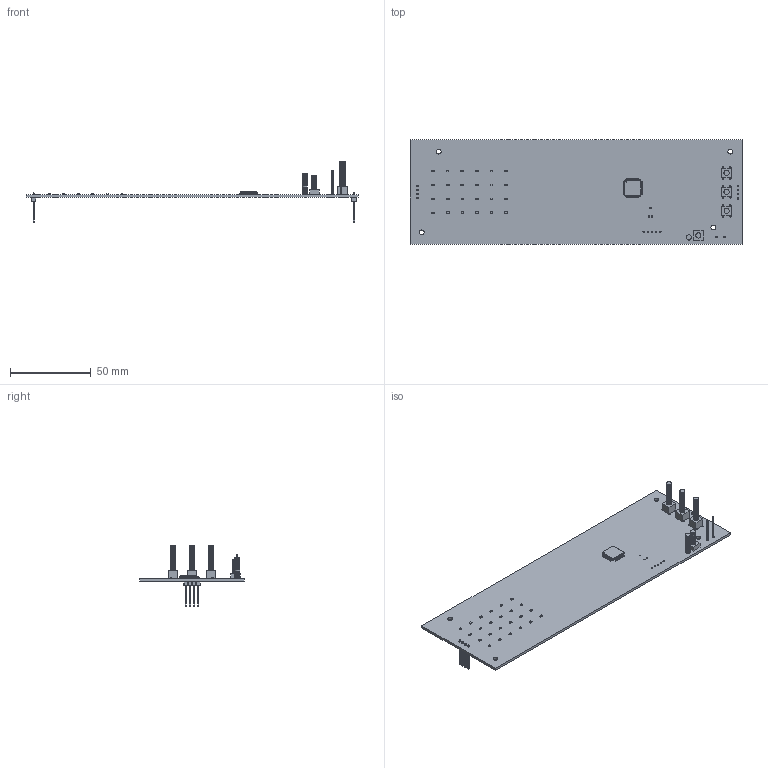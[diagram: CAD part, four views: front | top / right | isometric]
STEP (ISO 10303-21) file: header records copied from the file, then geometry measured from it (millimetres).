
FILE_DESCRIPTION(('Open CASCADE Model'),'2;1');
FILE_NAME('Open CASCADE Shape Model','2026-08-01T20:41:28',('Author'),( 'Open CASCADE'),'Open CASCADE STEP processor 7.5','Open CASCADE 7.5' ,'Unknown');
FILE_SCHEMA(('AUTOMOTIVE_DESIGN { 1 0 10303 214 1 1 1 1 }'));
Length unit declared in the file: millimetre
Products named in the file (64): PCB; Board; Open CASCADE STEP translator 7.5 1.1.1; D27; QBLP601_MONO; Substrate; Bottom Polarity; Top Polarity 2a; Bottom Pad 2; Bottom Pad 1; Side Pad 2; Top Polarity 2b; Side Pad 1; Top Pad 1; Resin; D26; D25; D24; D23; D22; D21; D20; D19; D18; D17; D16; D15; D14; D13; D12; SW1; 11130369120; Extruded; 12879318144; J10; strip_tsw-104-15-t-s; D5; D7; J9; SW3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
Assembly tree (92 placements, depth 4):
  PCB
    Board
      Open CASCADE STEP translator 7.5 1.1.1
    D27
      QBLP601_MONO
        Substrate
        Bottom Polarity
        Top Polarity 2a
        Bottom Pad 2
        Bottom Pad 1
        Side Pad 2
        Top Polarity 2b
        Side Pad 1
        Top Polarity 2a
        Top Pad 1
        Resin
    D26
      QBLP601_MONO
        Substrate
        Bottom Polarity
        Top Polarity 2a
        Bottom Pad 2
        Bottom Pad 1
        Side Pad 2
        Top Polarity 2b
        Side Pad 1
        Top Polarity 2a
        Top Pad 1
        Resin
    D25
      QBLP601_MONO
        Substrate
        Bottom Polarity
        Top Polarity 2a
        Bottom Pad 2
        Bottom Pad 1
        Side Pad 2
        Top Polarity 2b
        Side Pad 1
        Top Polarity 2a
        Top Pad 1
        Resin
    D24
      QBLP601_MONO
        Substrate
        Bottom Polarity
        Top Polarity 2a
        Bottom Pad 2
        Bottom Pad 1
        Side Pad 2
        Top Polarity 2b
        Side Pad 1
        Top Polarity 2a
        Top Pad 1
        Resin
    D23
      QBLP601_MONO
        Substrate
        Bottom Polarity
        Top Polarity 2a
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Bounding box: 205.5 x 64.4 x 37.85 mm (x, y, z)
Volume: 22653.1 mm3; surface area: 30170.6 mm2
Topology: 345 solids, 345 shells, 6117 faces, 15608 edges, 10368 vertices
Faces by surface type: plane 4405, cylinder 1016, bspline 696
Full cylindrical faces by diameter (mm): 0.9 x2, 0.99 x3, 1 x13, 1.06 x12, 1.1 x2, 3 x4
Entity records: 49955 total; most frequent: CARTESIAN_POINT 8571, ORIENTED_EDGE 7970, DIRECTION 7779, EDGE_CURVE 3985, LINE 3275, VECTOR 3275, VERTEX_POINT 2638, AXIS2_PLACEMENT_3D 2252
